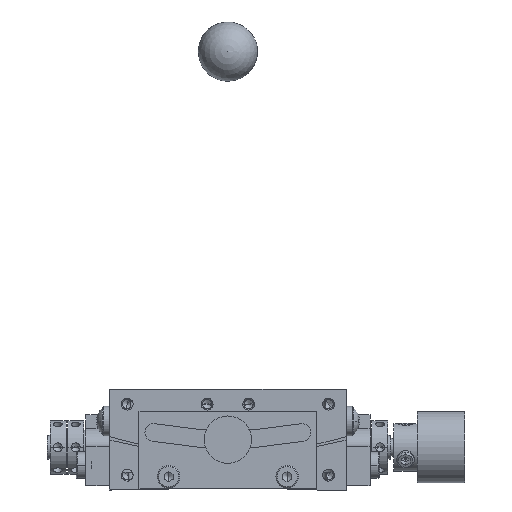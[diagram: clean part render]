
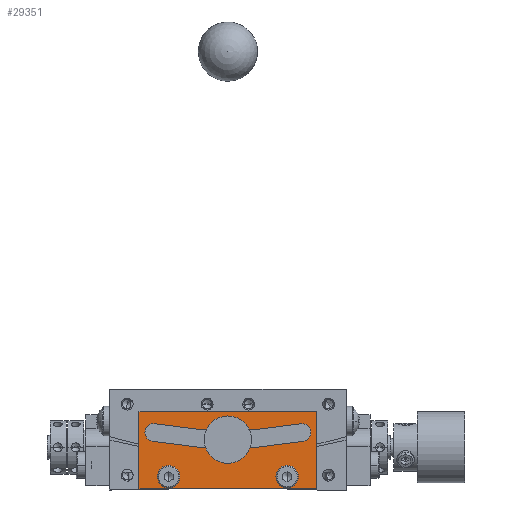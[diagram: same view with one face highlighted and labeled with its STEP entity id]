
A CAD part, front view. The second image highlights one B-rep face of the part: STEP entity #29351.
In plain terms, the highlighted planar face has unit normal (0, -1, 0) as drawn and (1, 0, 0) by its records, which use the part's own axes.
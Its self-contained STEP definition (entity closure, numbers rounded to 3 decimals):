
#1 = DIRECTION ( 'NONE',  ( 0., -1., 0. ) ) ;
#2 = CARTESIAN_POINT ( 'NONE',  ( 21.5, 0., 74. ) ) ;
#3 = DIRECTION ( 'NONE',  ( -1., 0., 0. ) ) ;
#4 = DIRECTION ( 'NONE',  ( 0., -1., 0. ) ) ;
#5 = LINE ( 'NONE', #6, #10337 ) ;
#6 = CARTESIAN_POINT ( 'NONE',  ( 21.5, -15., 13.25 ) ) ;
#7 = CARTESIAN_POINT ( 'NONE',  ( 21.5, -12.498, 9.703 ) ) ;
#8 = DIRECTION ( 'NONE',  ( -1., 0., 0. ) ) ;
#9 = DIRECTION ( 'NONE',  ( 0., -1., 0. ) ) ;
#10 = LINE ( 'NONE', #16, #10326 ) ;
#11 = CARTESIAN_POINT ( 'NONE',  ( 21.5, 0., 74. ) ) ;
#12 = DIRECTION ( 'NONE',  ( 1., 0., 0. ) ) ;
#13 = DIRECTION ( 'NONE',  ( 0., 1., 0. ) ) ;
#14 = LINE ( 'NONE', #20, #10343 ) ;
#15 = DIRECTION ( 'NONE',  ( 0., 1., 0. ) ) ;
#16 = CARTESIAN_POINT ( 'NONE',  ( 21.5, -15., 0.25 ) ) ;
#17 = DIRECTION ( 'NONE',  ( 0., 0., 1. ) ) ;
#18 = CARTESIAN_POINT ( 'NONE',  ( 21.5, 15., 0.25 ) ) ;
#19 = DIRECTION ( 'NONE',  ( 0., -1., 0. ) ) ;
#20 = CARTESIAN_POINT ( 'NONE',  ( 21.5, 15., 13.25 ) ) ;
#22 = DIRECTION ( 'NONE',  ( 0., 0., -1. ) ) ;
#26 = CARTESIAN_POINT ( 'NONE',  ( 21.5, 10., 2.25 ) ) ;
#27 = DIRECTION ( 'NONE',  ( -1., 0., 0. ) ) ;
#28 = DIRECTION ( 'NONE',  ( 0., 1., 0. ) ) ;
#4990 = LINE ( 'NONE', #18, #10341 ) ;
#4994 = CARTESIAN_POINT ( 'NONE',  ( 21.5, -10., 2.25 ) ) ;
#4995 = DIRECTION ( 'NONE',  ( -1., 0., 0. ) ) ;
#4996 = DIRECTION ( 'NONE',  ( 0., 1., 0. ) ) ;
#4997 = CARTESIAN_POINT ( 'NONE',  ( 21.5, 12.498, 9.703 ) ) ;
#5261 = CARTESIAN_POINT ( 'NONE',  ( 21.5, 15., 0.25 ) ) ;
#5273 = CARTESIAN_POINT ( 'NONE',  ( 21.5, -15., 0.25 ) ) ;
#5316 = CARTESIAN_POINT ( 'NONE',  ( 21.5, -12.784, 8.231 ) ) ;
#5317 = CARTESIAN_POINT ( 'NONE',  ( 21.5, 15., 13.25 ) ) ;
#5318 = CARTESIAN_POINT ( 'NONE',  ( 21.5, 12.784, 8.231 ) ) ;
#5322 = CARTESIAN_POINT ( 'NONE',  ( 21.5, 12.212, 11.176 ) ) ;
#5365 = CARTESIAN_POINT ( 'NONE',  ( 21.5, -15., 13.25 ) ) ;
#6627 = VERTEX_POINT ( 'NONE', #5261 ) ;
#6630 = VERTEX_POINT ( 'NONE', #5273 ) ;
#6632 = VERTEX_POINT ( 'NONE', #5316 ) ;
#6634 = VERTEX_POINT ( 'NONE', #5317 ) ;
#6637 = VERTEX_POINT ( 'NONE', #5318 ) ;
#6648 = VERTEX_POINT ( 'NONE', #5322 ) ;
#6651 = VERTEX_POINT ( 'NONE', #5365 ) ;
#7706 = VERTEX_POINT ( 'NONE', #19066 ) ;
#7714 = VERTEX_POINT ( 'NONE', #19071 ) ;
#7728 = VERTEX_POINT ( 'NONE', #19079 ) ;
#7736 = VERTEX_POINT ( 'NONE', #19084 ) ;
#7752 = VERTEX_POINT ( 'NONE', #19094 ) ;
#7786 = VERTEX_POINT ( 'NONE', #19113 ) ;
#10309 = CIRCLE ( 'NONE', #10324, 1.7 ) ;
#10318 = CIRCLE ( 'NONE', #10329, 1.5 ) ;
#10322 = CIRCLE ( 'NONE', #10333, 67. ) ;
#10324 = AXIS2_PLACEMENT_3D ( 'NONE', #4994, #4995, #4996 ) ;
#10326 = VECTOR ( 'NONE', #17, 1000. ) ;
#10329 = AXIS2_PLACEMENT_3D ( 'NONE', #4997, #12176, #1 ) ;
#10331 = CIRCLE ( 'NONE', #10336, 1.5 ) ;
#10333 = AXIS2_PLACEMENT_3D ( 'NONE', #2, #3, #4 ) ;
#10335 = CIRCLE ( 'NONE', #10340, 64. ) ;
#10336 = AXIS2_PLACEMENT_3D ( 'NONE', #7, #8, #9 ) ;
#10337 = VECTOR ( 'NONE', #15, 1000. ) ;
#10340 = AXIS2_PLACEMENT_3D ( 'NONE', #11, #12, #13 ) ;
#10341 = VECTOR ( 'NONE', #19, 1000. ) ;
#10343 = VECTOR ( 'NONE', #22, 1000. ) ;
#10345 = CIRCLE ( 'NONE', #10350, 1.7 ) ;
#10350 = AXIS2_PLACEMENT_3D ( 'NONE', #26, #27, #28 ) ;
#12176 = DIRECTION ( 'NONE',  ( -1., 0., 0. ) ) ;
#15827 = CARTESIAN_POINT ( 'NONE',  ( 21.5, 10., 2.25 ) ) ;
#15828 = DIRECTION ( 'NONE',  ( -1., 0., 0. ) ) ;
#15829 = DIRECTION ( 'NONE',  ( 0., 1., 0. ) ) ;
#15909 = CARTESIAN_POINT ( 'NONE',  ( 21.5, -10., 2.25 ) ) ;
#15911 = DIRECTION ( 'NONE',  ( -1., 0., 0. ) ) ;
#15913 = DIRECTION ( 'NONE',  ( 0., 1., 0. ) ) ;
#16007 = CARTESIAN_POINT ( 'NONE',  ( 21.5, -12.498, 9.703 ) ) ;
#16009 = DIRECTION ( 'NONE',  ( -1., 0., 0. ) ) ;
#16010 = DIRECTION ( 'NONE',  ( 0., -1., 0. ) ) ;
#16785 = EDGE_LOOP ( 'NONE', ( #25720, #25721, #25722, #25723 ) ) ;
#16786 = EDGE_LOOP ( 'NONE', ( #25715, #25716, #25717, #25718, #25719 ) ) ;
#16790 = EDGE_LOOP ( 'NONE', ( #25713, #25714 ) ) ;
#16791 = EDGE_LOOP ( 'NONE', ( #25724, #25725 ) ) ;
#17780 = DIRECTION ( 'NONE',  ( -1., 0., 0. ) ) ;
#17788 = FACE_BOUND ( 'NONE', #16790, .T. ) ;
#17789 = CARTESIAN_POINT ( 'NONE',  ( 21.5, 0., 0.25 ) ) ;
#17790 = FACE_BOUND ( 'NONE', #16786, .T. ) ;
#17792 = FACE_OUTER_BOUND ( 'NONE', #16785, .T. ) ;
#17793 = FACE_BOUND ( 'NONE', #16791, .T. ) ;
#17794 = PLANE ( 'NONE',  #27409 ) ;
#17795 = DIRECTION ( 'NONE',  ( 0., -1., 0. ) ) ;
#19066 = CARTESIAN_POINT ( 'NONE',  ( 21.5, -12.212, 11.176 ) ) ;
#19071 = CARTESIAN_POINT ( 'NONE',  ( 21.5, -13.998, 9.703 ) ) ;
#19079 = CARTESIAN_POINT ( 'NONE',  ( 21.5, -11.7, 2.25 ) ) ;
#19084 = CARTESIAN_POINT ( 'NONE',  ( 21.5, -8.3, 2.25 ) ) ;
#19094 = CARTESIAN_POINT ( 'NONE',  ( 21.5, 11.7, 2.25 ) ) ;
#19113 = CARTESIAN_POINT ( 'NONE',  ( 21.5, 8.3, 2.25 ) ) ;
#25713 = ORIENTED_EDGE ( 'NONE', *, *, #31236, .T. ) ;
#25714 = ORIENTED_EDGE ( 'NONE', *, *, #37889, .T. ) ;
#25715 = ORIENTED_EDGE ( 'NONE', *, *, #31237, .T. ) ;
#25716 = ORIENTED_EDGE ( 'NONE', *, *, #31239, .T. ) ;
#25717 = ORIENTED_EDGE ( 'NONE', *, *, #31241, .T. ) ;
#25718 = ORIENTED_EDGE ( 'NONE', *, *, #37904, .T. ) ;
#25719 = ORIENTED_EDGE ( 'NONE', *, *, #31243, .T. ) ;
#25720 = ORIENTED_EDGE ( 'NONE', *, *, #31245, .F. ) ;
#25721 = ORIENTED_EDGE ( 'NONE', *, *, #31247, .F. ) ;
#25722 = ORIENTED_EDGE ( 'NONE', *, *, #31248, .F. ) ;
#25723 = ORIENTED_EDGE ( 'NONE', *, *, #31250, .F. ) ;
#25724 = ORIENTED_EDGE ( 'NONE', *, *, #31251, .T. ) ;
#25725 = ORIENTED_EDGE ( 'NONE', *, *, #37874, .T. ) ;
#27409 = AXIS2_PLACEMENT_3D ( 'NONE', #17789, #17780, #17795 ) ;
#29351 = ADVANCED_FACE ( 'NONE', ( #17788, #17790, #17792, #17793 ), #17794, .F. ) ;
#31236 = EDGE_CURVE ( 'NONE', #7728, #7736, #10309, .T. ) ;
#31237 = EDGE_CURVE ( 'NONE', #6648, #6637, #10318, .T. ) ;
#31239 = EDGE_CURVE ( 'NONE', #6637, #6632, #10322, .T. ) ;
#31241 = EDGE_CURVE ( 'NONE', #6632, #7714, #10331, .T. ) ;
#31243 = EDGE_CURVE ( 'NONE', #7706, #6648, #10335, .T. ) ;
#31245 = EDGE_CURVE ( 'NONE', #6651, #6634, #5, .T. ) ;
#31247 = EDGE_CURVE ( 'NONE', #6630, #6651, #10, .T. ) ;
#31248 = EDGE_CURVE ( 'NONE', #6627, #6630, #4990, .T. ) ;
#31250 = EDGE_CURVE ( 'NONE', #6634, #6627, #14, .T. ) ;
#31251 = EDGE_CURVE ( 'NONE', #7786, #7752, #10345, .T. ) ;
#33830 = CIRCLE ( 'NONE', #33833, 1.7 ) ;
#33833 = AXIS2_PLACEMENT_3D ( 'NONE', #15827, #15828, #15829 ) ;
#33852 = CIRCLE ( 'NONE', #33855, 1.7 ) ;
#33855 = AXIS2_PLACEMENT_3D ( 'NONE', #15909, #15911, #15913 ) ;
#33874 = CIRCLE ( 'NONE', #33877, 1.5 ) ;
#33877 = AXIS2_PLACEMENT_3D ( 'NONE', #16007, #16009, #16010 ) ;
#37874 = EDGE_CURVE ( 'NONE', #7752, #7786, #33830, .T. ) ;
#37889 = EDGE_CURVE ( 'NONE', #7736, #7728, #33852, .T. ) ;
#37904 = EDGE_CURVE ( 'NONE', #7714, #7706, #33874, .T. ) ;
